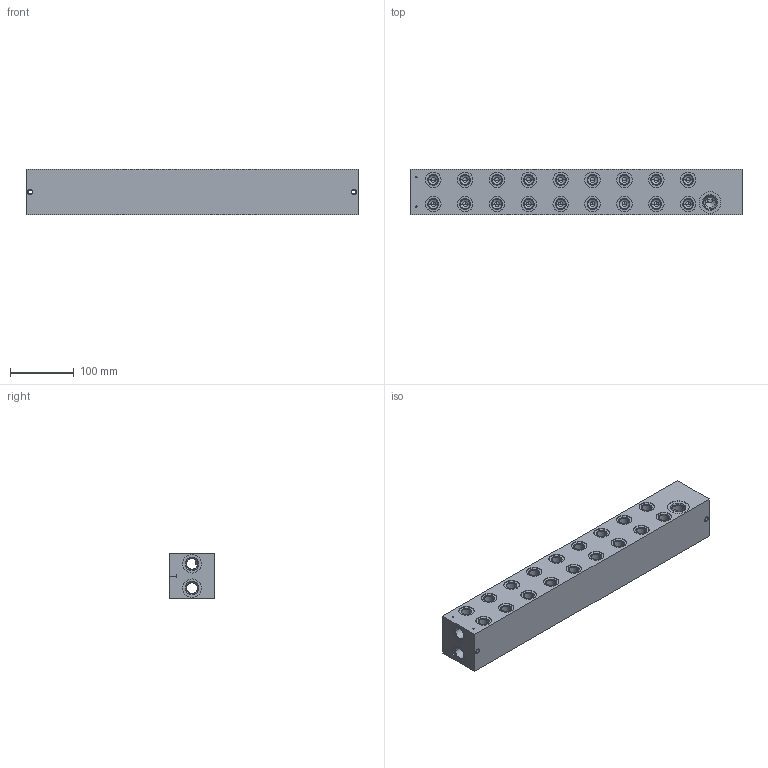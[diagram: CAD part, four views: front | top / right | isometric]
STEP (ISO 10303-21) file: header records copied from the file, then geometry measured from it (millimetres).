
FILE_DESCRIPTION((''),'2;1');
FILE_NAME('1000060218','2024-02-06T',('l.soukupova'),(''),'PRO/ENGINEER BY PARAMETRIC TECHNOLOGY CORPORATION, 2015440','PRO/ENGINEER BY PARAMETRIC TECHNOLOGY CORPORATION, 2015440','');
FILE_SCHEMA(('AUTOMOTIVE_DESIGN { 1 0 10303 214 1 1 1 1 }'));
Length unit declared in the file: millimetre
Products named in the file (1): 1000060218
Bounding box: 521 x 71 x 71 mm (x, y, z)
Volume: 2227289.4 mm3; surface area: 300463.6 mm2
Topology: 1 solids, 67 shells, 766 faces, 2591 edges, 2203 vertices
Faces by surface type: cylinder 442, cone 226, plane 98
Entity records: 42762 total; most frequent: CARTESIAN_POINT 12563, DIRECTION 4820, ORIENTED_EDGE 3398, PRESENTATION_STYLE_ASSIGNMENT 2677, STYLED_ITEM 2671, CURVE_STYLE 2604, EDGE_CURVE 1831, AXIS2_PLACEMENT_3D 1752
